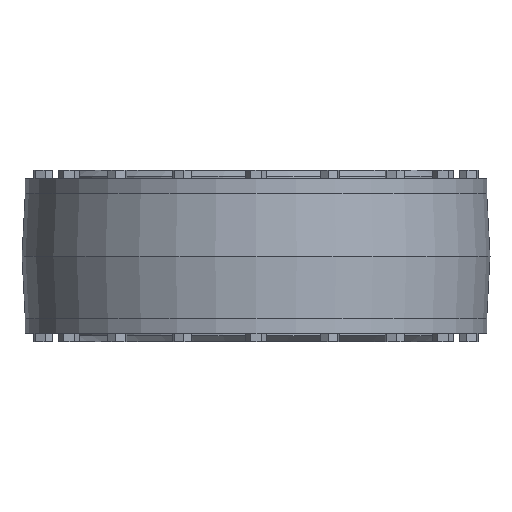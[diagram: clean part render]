
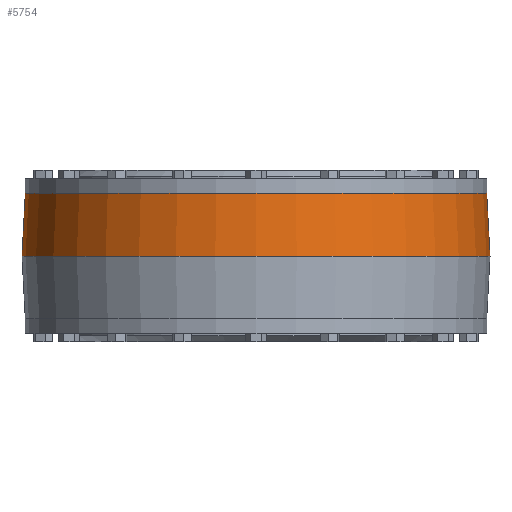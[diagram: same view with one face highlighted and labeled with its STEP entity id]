
A CAD part, front view. The second image highlights one B-rep face of the part: STEP entity #5754.
In plain terms, the highlighted conical face has half-angle 3 degrees and reference radius 249.411 mm.
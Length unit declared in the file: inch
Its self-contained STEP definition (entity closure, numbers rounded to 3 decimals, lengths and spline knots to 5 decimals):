
#66=CONICAL_SURFACE('',#6139,9.81931,0.052);
#192=CIRCLE('',#6137,9.75);
#193=CIRCLE('',#6138,9.75);
#194=CIRCLE('',#6140,9.88862);
#195=CIRCLE('',#6141,9.88862);
#482=FACE_OUTER_BOUND('',#821,.T.);
#821=EDGE_LOOP('',(#4893,#4894,#4895,#4896,#4897,#4898));
#1490=LINE('',#9128,#2159);
#2159=VECTOR('',#7555,9.81931);
#2666=VERTEX_POINT('',#9118);
#2667=VERTEX_POINT('',#9119);
#2668=VERTEX_POINT('',#9124);
#2669=VERTEX_POINT('',#9125);
#3409=EDGE_CURVE('',#2666,#2667,#192,.T.);
#3410=EDGE_CURVE('',#2667,#2666,#193,.T.);
#3412=EDGE_CURVE('',#2668,#2669,#194,.T.);
#3413=EDGE_CURVE('',#2669,#2668,#195,.T.);
#3414=EDGE_CURVE('',#2669,#2667,#1490,.T.);
#4893=ORIENTED_EDGE('',*,*,#3412,.F.);
#4894=ORIENTED_EDGE('',*,*,#3413,.F.);
#4895=ORIENTED_EDGE('',*,*,#3414,.T.);
#4896=ORIENTED_EDGE('',*,*,#3410,.T.);
#4897=ORIENTED_EDGE('',*,*,#3409,.T.);
#4898=ORIENTED_EDGE('',*,*,#3414,.F.);
#5754=ADVANCED_FACE('',(#482),#66,.T.);
#6137=AXIS2_PLACEMENT_3D('',#9120,#7544,#7545);
#6138=AXIS2_PLACEMENT_3D('',#9121,#7546,#7547);
#6139=AXIS2_PLACEMENT_3D('',#9123,#7549,#7550);
#6140=AXIS2_PLACEMENT_3D('',#9126,#7551,#7552);
#6141=AXIS2_PLACEMENT_3D('',#9127,#7553,#7554);
#7544=DIRECTION('center_axis',(0.,0.,-1.));
#7545=DIRECTION('ref_axis',(1.,0.,0.));
#7546=DIRECTION('center_axis',(0.,0.,-1.));
#7547=DIRECTION('ref_axis',(1.,0.,0.));
#7549=DIRECTION('center_axis',(0.,0.,-1.));
#7550=DIRECTION('ref_axis',(0.,1.,0.));
#7551=DIRECTION('center_axis',(0.,0.,-1.));
#7552=DIRECTION('ref_axis',(1.,0.,0.));
#7553=DIRECTION('center_axis',(0.,0.,-1.));
#7554=DIRECTION('ref_axis',(1.,0.,0.));
#7555=DIRECTION('',(0.,0.052,0.999));
#9118=CARTESIAN_POINT('',(0.,9.75,2.645));
#9119=CARTESIAN_POINT('',(0.,-9.75,2.645));
#9120=CARTESIAN_POINT('Origin',(0.,0.,2.645));
#9121=CARTESIAN_POINT('Origin',(0.,0.,2.645));
#9123=CARTESIAN_POINT('Origin',(0.,0.,1.3225));
#9124=CARTESIAN_POINT('',(0.,9.88862,0.));
#9125=CARTESIAN_POINT('',(0.,-9.88862,0.));
#9126=CARTESIAN_POINT('Origin',(0.,0.,0.));
#9127=CARTESIAN_POINT('Origin',(0.,0.,0.));
#9128=CARTESIAN_POINT('',(0.,-9.81931,1.3225));
